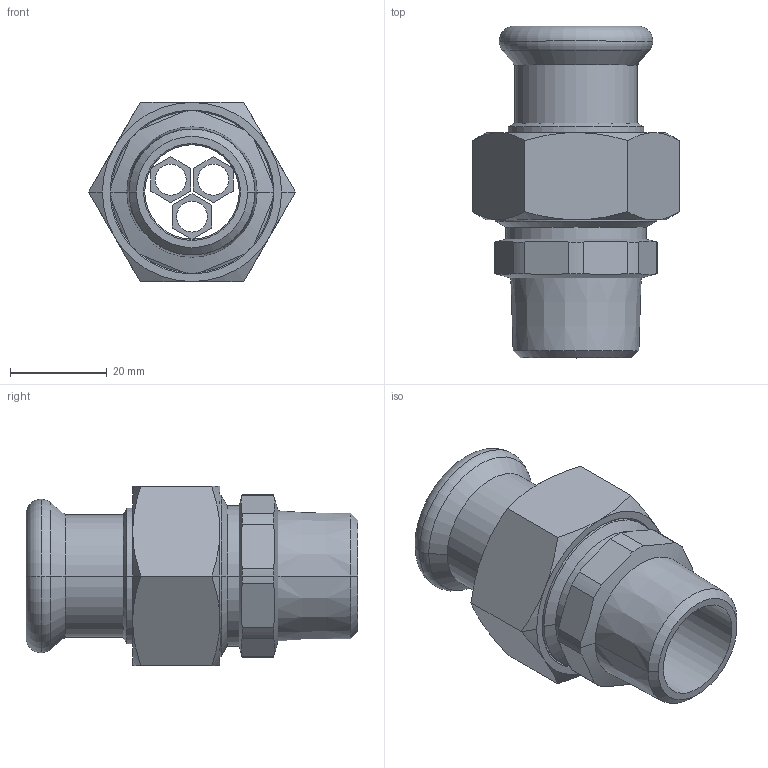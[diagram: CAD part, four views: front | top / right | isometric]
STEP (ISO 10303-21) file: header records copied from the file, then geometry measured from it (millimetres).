
FILE_DESCRIPTION(('OneSpaceDesigner STEP Export'),'2;1');
FILE_NAME('R2735 22xRp3-4.stp','2010-06-10T13:52:46',(''),(''),'OneSpace Designer STEP processor for AP214 (Solid Model)','OneSpace Modeling 15.00A 14-Mar-2007 (C) CoCreate Software GmbH','');
FILE_SCHEMA(('AUTOMOTIVE_DESIGN { 1 0 10303 214 1 1 1 1 }'));
Length unit declared in the file: millimetre
Products named in the file (2): R2735_22xRp3-4
Assembly tree (1 placements, depth 2):
  R2735_22xRp3-4
    R2735_22xRp3-4
Bounding box: 42.72 x 68.5 x 37 mm (x, y, z)
Volume: 27963.1 mm3; surface area: 15593.5 mm2
Topology: 1 solids, 1 shells, 148 faces, 367 edges, 226 vertices
Faces by surface type: cone 49, plane 48, cylinder 43, torus 8
Entity records: 5505 total; most frequent: CARTESIAN_POINT 2418, ORIENTED_EDGE 734, DIRECTION 487, EDGE_CURVE 367, VERTEX_POINT 226, VECTOR 169, LINE 169, EDGE_LOOP 161
